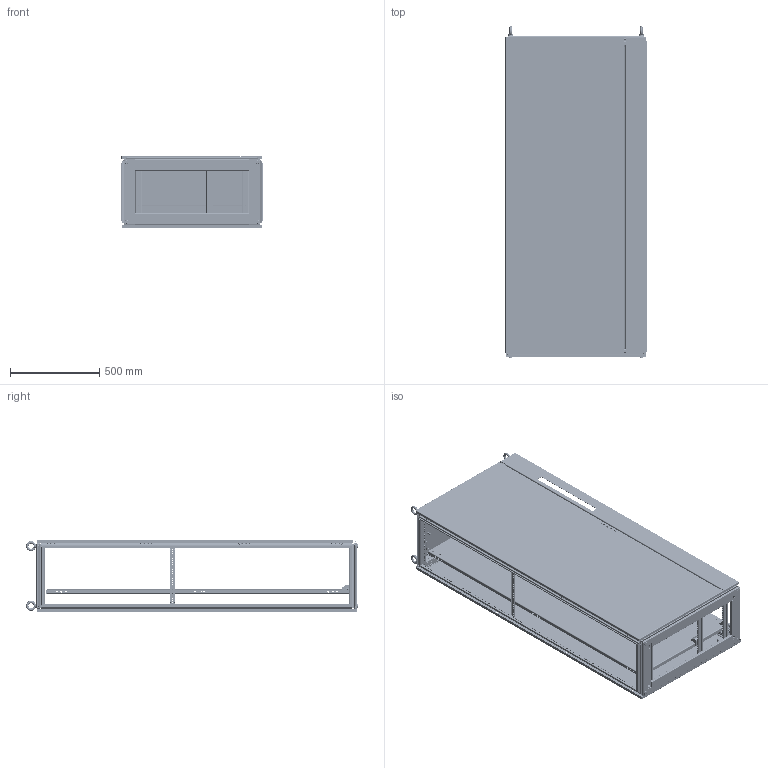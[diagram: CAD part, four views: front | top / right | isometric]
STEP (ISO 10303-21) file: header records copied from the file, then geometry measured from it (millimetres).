
FILE_DESCRIPTION((''),'2;1');
FILE_NAME('9951134_ASM','2015-03-11T',('us01724'),(''),'PRO/ENGINEER BY PARAMETRIC TECHNOLOGY CORPORATION, 2014310','PRO/ENGINEER BY PARAMETRIC TECHNOLOGY CORPORATION, 2014310','');
FILE_SCHEMA(('CONFIG_CONTROL_DESIGN'));
Products named in the file (56): D0242692_AF0; D0242692_AF1; D0242689_AF0; D0242689_AF1; D0242692; D0242689; D0242686; D0241135; TS_FRAME_TY081804_COOLBLK_ASM; D0241538; D0241473; D0241150; D0208515; D0241463_TS_MPL_SLIDE_BLOCK_L; D0241464_TS_MPL_SLIDE_BLOCK_R; D0241469_TS_MPL_RETAINER_RIGHT; D0241468_TS_MPL_RETAINER_LEFT; D0271000; 211119; D0274958; D0043240; TS_GASKET_DOOR_FMDC_1800; D0242763_TS8_GROUND_STUD_M8; D0242763_TS8_CAP_M8; D0242763_ASM; D0207315; D0242679; D0041315; D0223916; D0043240_ASM; D0043306; TS_GASKET_DR_FMDC_LEFT_0718; D0233320; D0233330; D0214486; D0272084_ASM; D0241491; D0241495; D0042690; D0030693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
Assembly tree (136 placements, depth 4):
  9951134_ASM
    TS_FRAME_TY081804_COOLBLK_ASM
      D0242692_AF0
      D0242692_AF1
      D0242689_AF0
      D0242689_AF1
      D0242692  x2
      D0242689  x2
      D0242686  x4
      D0241135  x8
    D0241538  x2
    D0241473  x2
    D0241150  x3
    D0208515  x2
    D0241463_TS_MPL_SLIDE_BLOCK_L
    D0241464_TS_MPL_SLIDE_BLOCK_R
    D0241469_TS_MPL_RETAINER_RIGHT
    D0241468_TS_MPL_RETAINER_LEFT
    D0271000
    211119
    D0274958  x8
    D0043240_ASM
      D0043240
      TS_GASKET_DOOR_FMDC_1800
      D0242763_ASM  x2
        D0242763_TS8_GROUND_STUD_M8
        D0242763_TS8_CAP_M8
      D0207315  x4
      D0242679  x3
      D0041315  x4
      D0223916
    D0043306_ASM
      D0043306
      TS_GASKET_DR_FMDC_LEFT_0718
      D0242763_ASM  x2
        D0242763_TS8_GROUND_STUD_M8
        D0242763_TS8_CAP_M8
      D0242679  x6
      D0207315  x4
      D0223916  x8
      D0272084_ASM
        D0233320  x2
        D0233330  x2
        D0214486  x4
      TS_LOCKBAR_ASSY_1800_FMDC_ASM
        D0241491
        D0241495  x2
        D0042690  x2
        D0030693  x4
    D0275680_ASM
      D0275680
      TS_GASKET_ROOF_0804
      D0242763_ASM  x2
        D0242763_TS8_GROUND_STUD_M8
        D0242763_TS8_CAP_M8
    D0275871  x4
    D0275665_ASM
      TS_BASE_FRAME_MEM_400_NO_NOTCH  x2
      TS_BASE_FRAME_CORNER  x4
      TS_BASE_FRAME_MEM_800_NO_NOTCH  x2
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Bounding box: 797 x 1864.45 x 405.62 mm (x, y, z)
Volume: 14975096 mm3; surface area: 15348836.5 mm2
Topology: 150 solids, 158 shells, 19424 faces, 54321 edges, 34960 vertices
Faces by surface type: plane 11346, cylinder 6896, cone 376, torus 324, bspline 228, sphere 158, extrusion 96
Entity records: 269989 total; most frequent: CARTESIAN_POINT 51924, ORIENTED_EDGE 44618, DIRECTION 44540, EDGE_CURVE 22313, VECTOR 15440, LINE 15416, AXIS2_PLACEMENT_3D 14550, VERTEX_POINT 14428
